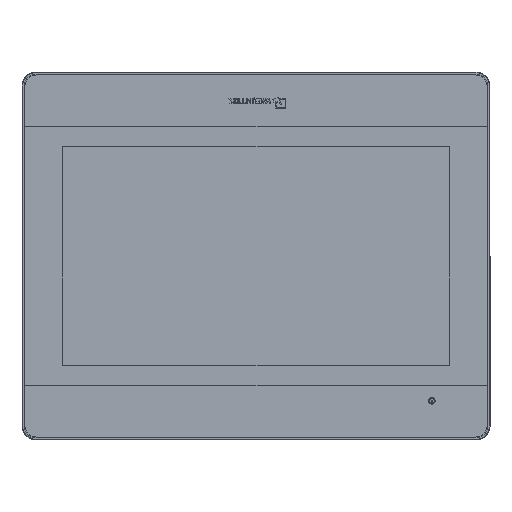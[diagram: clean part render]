
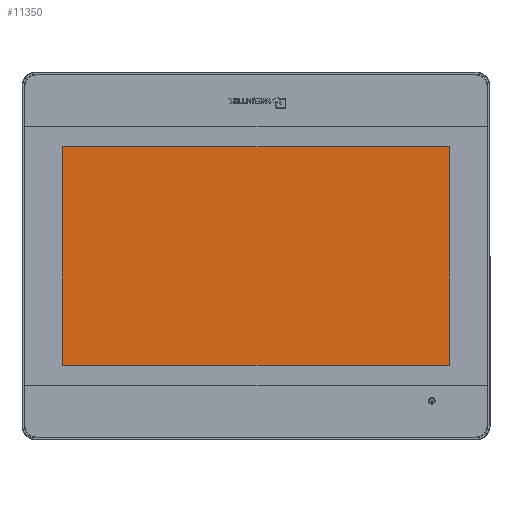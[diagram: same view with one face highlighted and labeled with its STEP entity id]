
A CAD part, top view. The second image highlights one B-rep face of the part: STEP entity #11350.
In plain terms, the highlighted planar face has unit normal (0, 0, 1).
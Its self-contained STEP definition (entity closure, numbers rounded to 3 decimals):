
#5841 = CARTESIAN_POINT ( 'NONE',  ( -126.8, 97.8, 5.43 ) ) ;
#5847 = FACE_OUTER_BOUND ( 'NONE', #25213, .T. ) ;
#5848 = PLANE ( 'NONE',  #40792 ) ;
#5850 = DIRECTION ( 'NONE',  ( 0., 0., 1. ) ) ;
#5851 = DIRECTION ( 'NONE',  ( -1., 0., 0. ) ) ;
#9829 = LINE ( 'NONE', #9871, #49669 ) ;
#9867 = LINE ( 'NONE', #9869, #49674 ) ;
#9869 = CARTESIAN_POINT ( 'NONE',  ( -111.87, 97.8, 5.43 ) ) ;
#9870 = DIRECTION ( 'NONE',  ( 0., 1., 0. ) ) ;
#9871 = CARTESIAN_POINT ( 'NONE',  ( -126.8, -63.14, 5.43 ) ) ;
#9872 = DIRECTION ( 'NONE',  ( -1., 0., 0. ) ) ;
#9873 = LINE ( 'NONE', #9874, #49678 ) ;
#9874 = CARTESIAN_POINT ( 'NONE',  ( 111.87, 97.8, 5.43 ) ) ;
#9875 = DIRECTION ( 'NONE',  ( 0., -1., 0. ) ) ;
#9876 = LINE ( 'NONE', #9877, #49680 ) ;
#9877 = CARTESIAN_POINT ( 'NONE',  ( -126.8, 63.14, 5.43 ) ) ;
#9878 = DIRECTION ( 'NONE',  ( 1., 0., 0. ) ) ;
#11350 = ADVANCED_FACE ( 'NONE', ( #5847 ), #5848, .T. ) ;
#17417 = ORIENTED_EDGE ( 'NONE', *, *, #36426, .F. ) ;
#17419 = ORIENTED_EDGE ( 'NONE', *, *, #36427, .F. ) ;
#17421 = ORIENTED_EDGE ( 'NONE', *, *, #36428, .F. ) ;
#17423 = ORIENTED_EDGE ( 'NONE', *, *, #36429, .F. ) ;
#25213 = EDGE_LOOP ( 'NONE', ( #17417, #17419, #17421, #17423 ) ) ;
#25897 = VERTEX_POINT ( 'NONE', #43405 ) ;
#25898 = VERTEX_POINT ( 'NONE', #43407 ) ;
#25899 = VERTEX_POINT ( 'NONE', #43409 ) ;
#25904 = VERTEX_POINT ( 'NONE', #43419 ) ;
#36426 = EDGE_CURVE ( 'NONE', #25904, #25898, #9867, .T. ) ;
#36427 = EDGE_CURVE ( 'NONE', #25899, #25904, #9829, .T. ) ;
#36428 = EDGE_CURVE ( 'NONE', #25897, #25899, #9873, .T. ) ;
#36429 = EDGE_CURVE ( 'NONE', #25898, #25897, #9876, .T. ) ;
#40792 = AXIS2_PLACEMENT_3D ( 'NONE', #5841, #5850, #5851 ) ;
#43405 = CARTESIAN_POINT ( 'NONE',  ( 111.87, 63.14, 5.43 ) ) ;
#43407 = CARTESIAN_POINT ( 'NONE',  ( -111.87, 63.14, 5.43 ) ) ;
#43409 = CARTESIAN_POINT ( 'NONE',  ( 111.87, -63.14, 5.43 ) ) ;
#43419 = CARTESIAN_POINT ( 'NONE',  ( -111.87, -63.14, 5.43 ) ) ;
#49669 = VECTOR ( 'NONE', #9872, 1000. ) ;
#49674 = VECTOR ( 'NONE', #9870, 1000. ) ;
#49678 = VECTOR ( 'NONE', #9875, 1000. ) ;
#49680 = VECTOR ( 'NONE', #9878, 1000. ) ;
